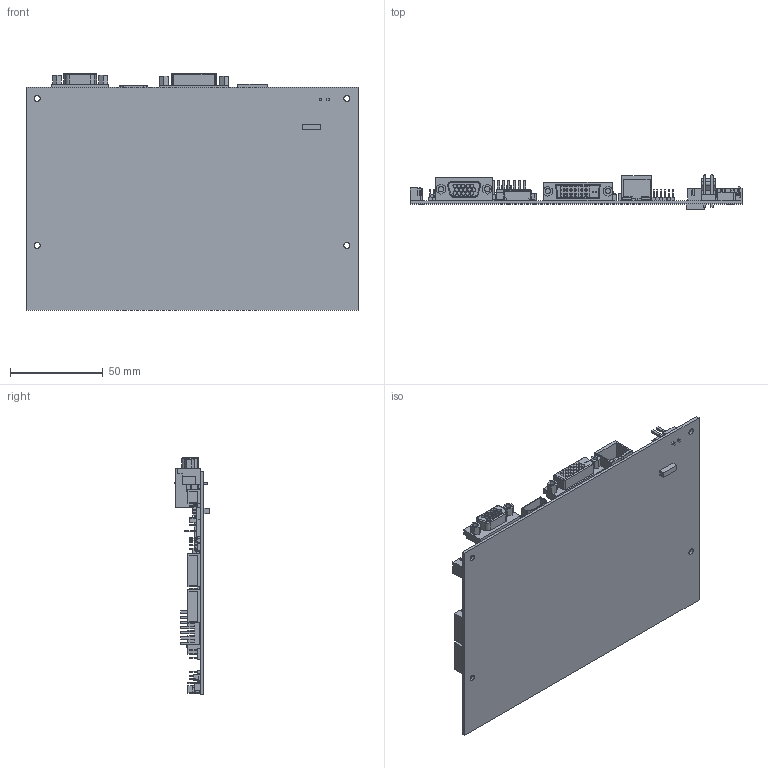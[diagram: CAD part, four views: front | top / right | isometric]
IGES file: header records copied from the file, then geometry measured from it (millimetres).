
Start section: SolidWorks IGES file using analytic representation for surfaces
Global section: file name: C:\Documents and Settings\jojocheung\Desktop\jojo\20160718 barry HX-1920v3 heatsink\heatsink version\HX-1920v3 & heatsink.IGS; native system: SolidWorks 2011; preprocessor: SolidWorks 2011; author: jojocheung; date: 160722.143040; units: millimetre
Bounding box: 179.07 x 18.9 x 127.76 mm (x, y, z)
Surface area: 67902.4 mm2 (no closed solid volume)
Topology: 0 solids, 0 shells, 2372 faces, 13668 edges, 13664 vertices
Faces by surface type: bspline 2197, revolution 175
